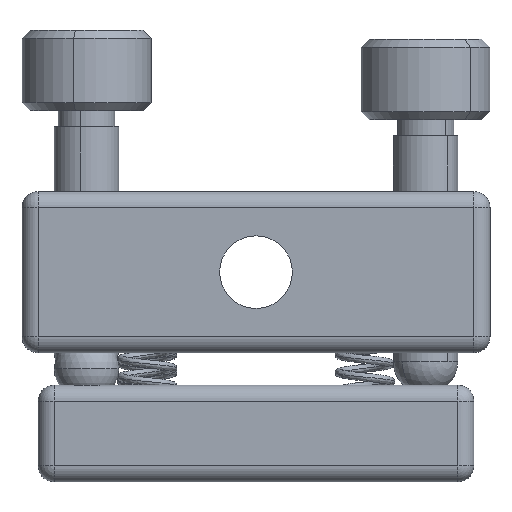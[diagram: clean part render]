
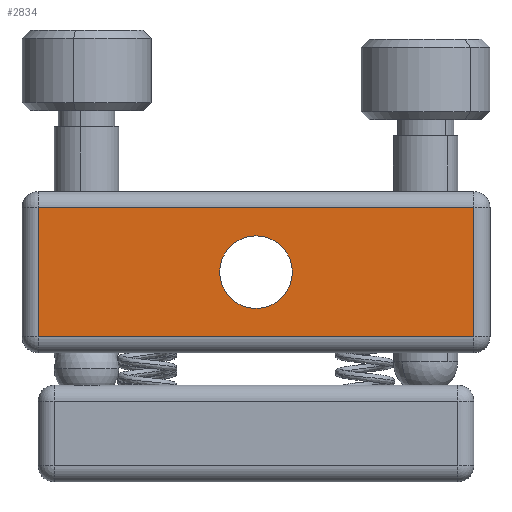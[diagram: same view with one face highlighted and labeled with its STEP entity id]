
A CAD part, left-side view. The second image highlights one B-rep face of the part: STEP entity #2834.
In plain terms, the highlighted planar face has unit normal (-1, 0, 0).
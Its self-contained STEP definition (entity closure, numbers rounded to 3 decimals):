
#18 = CARTESIAN_POINT ( 'NONE',  ( -14.5, 0., 2.25 ) ) ;
#222 = DIRECTION ( 'NONE',  ( 0., 0., -1. ) ) ;
#282 = CARTESIAN_POINT ( 'NONE',  ( -14.5, 13.5, 4. ) ) ;
#297 = CARTESIAN_POINT ( 'NONE',  ( -14.5, 13.5, 5. ) ) ;
#354 = VECTOR ( 'NONE', #4156, 1000. ) ;
#486 = LINE ( 'NONE', #4105, #354 ) ;
#527 = FACE_OUTER_BOUND ( 'NONE', #8335, .T. ) ;
#796 = CARTESIAN_POINT ( 'NONE',  ( -14.5, -13.5, 4. ) ) ;
#1352 = VERTEX_POINT ( 'NONE', #11278 ) ;
#1473 = DIRECTION ( 'NONE',  ( 0., 0., -1. ) ) ;
#1501 = DIRECTION ( 'NONE',  ( 1., 0., 0. ) ) ;
#1627 = CARTESIAN_POINT ( 'NONE',  ( -14.5, -14.5, 5. ) ) ;
#1891 = PLANE ( 'NONE',  #2027 ) ;
#1928 = DIRECTION ( 'NONE',  ( 0., 0., -1. ) ) ;
#1946 = CARTESIAN_POINT ( 'NONE',  ( -14.5, 0., 0. ) ) ;
#2027 = AXIS2_PLACEMENT_3D ( 'NONE', #1627, #1501, #1473 ) ;
#2085 = DIRECTION ( 'NONE',  ( 1., 0., 0. ) ) ;
#2418 = VECTOR ( 'NONE', #15059, 1000. ) ;
#2424 = CARTESIAN_POINT ( 'NONE',  ( -14.5, -13.5, -4. ) ) ;
#2460 = LINE ( 'NONE', #15113, #2418 ) ;
#2764 = VECTOR ( 'NONE', #222, 1000. ) ;
#2777 = LINE ( 'NONE', #297, #2764 ) ;
#2834 = ADVANCED_FACE ( 'NONE', ( #13125, #527 ), #1891, .F. ) ;
#2959 = CIRCLE ( 'NONE', #8706, 2.25 ) ;
#3181 = EDGE_CURVE ( 'NONE', #1352, #9837, #12011, .T. ) ;
#3513 = DIRECTION ( 'NONE',  ( 0., -1., 0. ) ) ;
#4105 = CARTESIAN_POINT ( 'NONE',  ( -14.5, -13.5, 5. ) ) ;
#4156 = DIRECTION ( 'NONE',  ( 0., 0., 1. ) ) ;
#4319 = CARTESIAN_POINT ( 'NONE',  ( -14.5, 0., -2.25 ) ) ;
#6252 = VERTEX_POINT ( 'NONE', #282 ) ;
#6293 = EDGE_CURVE ( 'NONE', #13242, #8014, #2959, .T. ) ;
#6347 = EDGE_CURVE ( 'NONE', #6252, #1352, #2777, .T. ) ;
#6451 = EDGE_CURVE ( 'NONE', #14970, #6252, #2460, .T. ) ;
#7011 = EDGE_CURVE ( 'NONE', #9837, #14970, #486, .T. ) ;
#8014 = VERTEX_POINT ( 'NONE', #4319 ) ;
#8335 = EDGE_LOOP ( 'NONE', ( #9297, #9443, #9690, #10000 ) ) ;
#8706 = AXIS2_PLACEMENT_3D ( 'NONE', #1946, #2085, #1928 ) ;
#8892 = ORIENTED_EDGE ( 'NONE', *, *, #6293, .T. ) ;
#9020 = EDGE_CURVE ( 'NONE', #8014, #13242, #11951, .T. ) ;
#9106 = ORIENTED_EDGE ( 'NONE', *, *, #9020, .T. ) ;
#9297 = ORIENTED_EDGE ( 'NONE', *, *, #7011, .T. ) ;
#9443 = ORIENTED_EDGE ( 'NONE', *, *, #6451, .T. ) ;
#9690 = ORIENTED_EDGE ( 'NONE', *, *, #6347, .T. ) ;
#9837 = VERTEX_POINT ( 'NONE', #12544 ) ;
#10000 = ORIENTED_EDGE ( 'NONE', *, *, #3181, .T. ) ;
#10026 = EDGE_LOOP ( 'NONE', ( #9106, #8892 ) ) ;
#10979 = DIRECTION ( 'NONE',  ( 0., 0., -1. ) ) ;
#10999 = DIRECTION ( 'NONE',  ( 1., 0., 0. ) ) ;
#11085 = CARTESIAN_POINT ( 'NONE',  ( -14.5, 0., 0. ) ) ;
#11278 = CARTESIAN_POINT ( 'NONE',  ( -14.5, 13.5, -4. ) ) ;
#11951 = CIRCLE ( 'NONE', #15103, 2.25 ) ;
#12011 = LINE ( 'NONE', #2424, #12337 ) ;
#12337 = VECTOR ( 'NONE', #3513, 1000. ) ;
#12544 = CARTESIAN_POINT ( 'NONE',  ( -14.5, -13.5, -4. ) ) ;
#13125 = FACE_BOUND ( 'NONE', #10026, .T. ) ;
#13242 = VERTEX_POINT ( 'NONE', #18 ) ;
#14970 = VERTEX_POINT ( 'NONE', #796 ) ;
#15059 = DIRECTION ( 'NONE',  ( 0., 1., 0. ) ) ;
#15103 = AXIS2_PLACEMENT_3D ( 'NONE', #11085, #10999, #10979 ) ;
#15113 = CARTESIAN_POINT ( 'NONE',  ( -14.5, -14.5, 4. ) ) ;
